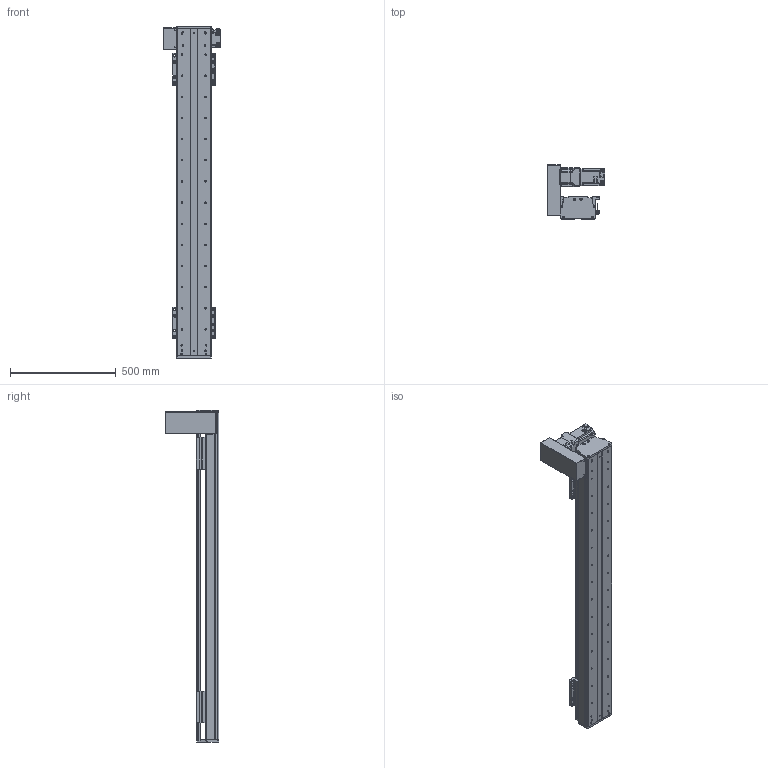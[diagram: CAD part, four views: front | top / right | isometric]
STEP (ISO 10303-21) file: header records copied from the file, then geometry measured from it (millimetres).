
FILE_DESCRIPTION(/* description */ (''),/* implementation_level */ '2;1');
FILE_NAME(/* name */ 'C:\Users\PC\Desktop\3D도면\STEP\DSB165-UL7G-W1200-R.stp',/* time_stamp */ '2018-06-25T15:07:03+09:00',/* author */ ('PC'),/* organization */ (''),/* preprocessor_version */ 'ST-DEVELOPER v16.5',/* originating_system */ 'Autodesk Inventor 2017',/* authorisation */ '');
FILE_SCHEMA (('AUTOMOTIVE_DESIGN { 1 0 10303 214 3 1 1 }'));
Length unit declared in the file: millimetre
Products named in the file (12): DSB165-L; DSR165-BASE_S; hg-kr73_; ab0901-p0401300102; 11-DBS165 BELT COVER; DBS165-COVER; DBS165-COVER_1; DBS165-UP COVER; DSR126-SENSOR DOG; pm-y65_step; SENSOR BRACKET(EE-SX674A); DBS165-TABLE(MSA20S)
Assembly tree (16 placements, depth 2):
  DSB165-L
    DSR165-BASE_S
    hg-kr73_
    ab0901-p0401300102
    11-DBS165 BELT COVER
    DBS165-COVER
    DBS165-COVER_1
    DBS165-UP COVER
    DSR126-SENSOR DOG
    pm-y65_step  x3
    SENSOR BRACKET(EE-SX674A)  x3
    DBS165-TABLE(MSA20S)  x2
Bounding box: 270 x 254 x 1570 mm (x, y, z)
Volume: 9781234.1 mm3; surface area: 2271480.1 mm2
Topology: 17 solids, 22 shells, 1687 faces, 4525 edges, 2982 vertices
Faces by surface type: plane 926, cylinder 629, cone 120, sphere 8, torus 4
Full cylindrical faces by diameter (mm): 2.459 x20, 3.5 x6, 4.134 x42, 4.5 x18, 5 x27, 5.5 x36, 5.9 x4, 6 x8, 6.6 x14, 6.647 x48, 6.8 x1, 7 x4, 7.6 x4, 8 x1, 8.4 x1, 8.5 x24, 8.7 x1, 9.5 x32, 11 x6, 14 x16, 19 x1, 22 x1, 24 x1, 25 x1, 28 x1, 67 x1, 70 x2, 80 x1
Entity records: 35869 total; most frequent: DIRECTION 6348, CARTESIAN_POINT 6139, ORIENTED_EDGE 5574, EDGE_CURVE 2792, AXIS2_PLACEMENT_3D 2344, VERTEX_POINT 1997, EDGE_LOOP 1771, LINE 1660
